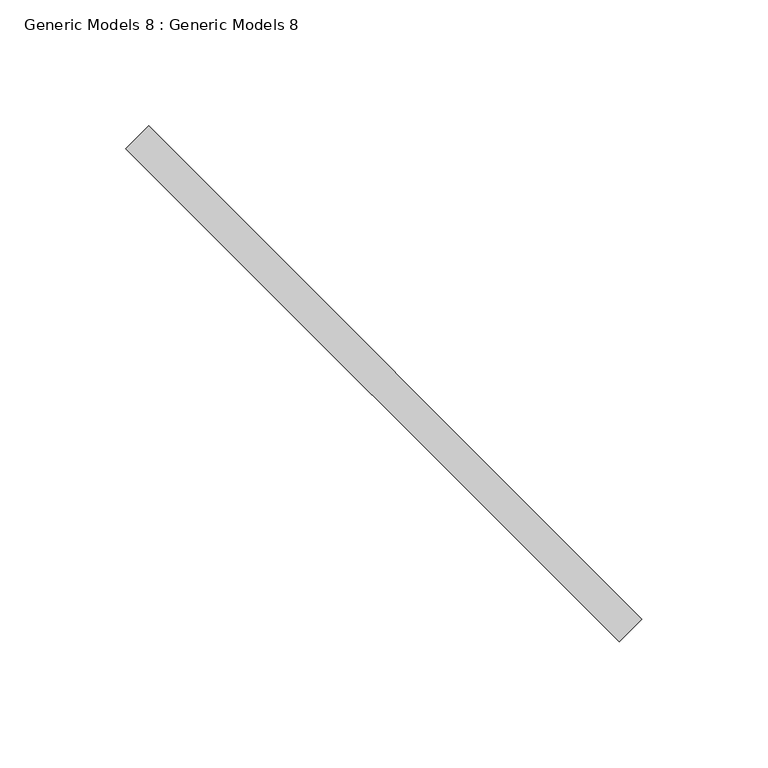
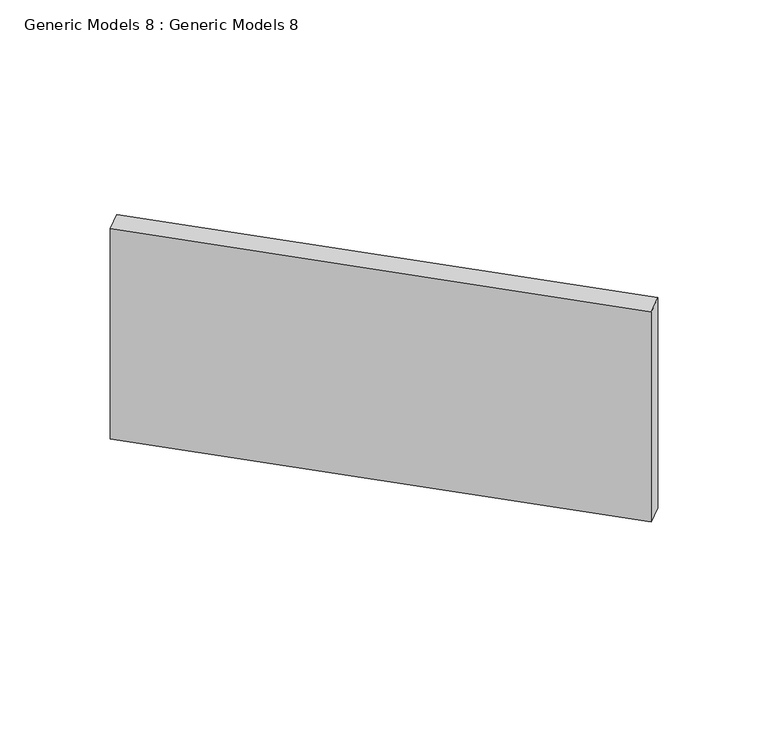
"""IFC4 building model written with IfcOpenShell, lengths in millimetres: proxy geometry, Generic Models 8 : Generic Models 8."""

from ifc_helpers import new_model, si_unit, frame, origin, place, context, project, spatial, polyline, outline, extrude, source, transform, mapped, element, save


def generic_models_8_generic_models_8_df820373(model_context):
    return source(origin(), model_context, "Body", "SweptSolid", [
        extrude(outline(polyline([(3437.3593744, 3375.1011378), (3633.20875, 3179.2517622), (3624.2284939, 3170.2715061), (3428.3791183, 3366.1208817), (3437.3593744, 3375.1011378)])), frame((0.0, 0.0, 191.29375), z_axis=(0.0, 0.0, 1.0), x_axis=(1.0, 0.0, 0.0)), (0.0, 0.0, 1.0), 127.0),
    ])


if __name__ == "__main__":
    model = new_model("IFC4")
    model_context = context("Model", 3, world=origin())
    ifc_project = project(units=[si_unit("LENGTHUNIT", "METRE", prefix="MILLI")], contexts=[model_context])
    site = spatial("IfcSite", under=ifc_project)
    building = spatial("IfcBuilding", under=site)
    placement = place(None, origin())
    generic_models_8_generic_models_8_shape = generic_models_8_generic_models_8_df820373(model_context)
    element("IfcBuildingElementProxy", 1, Name="Generic Models 8 : Generic Models 8", ObjectType="Generic Models 8 : Generic Models 8", at=placement, inside=building, context=model_context, shape_type="MappedRepresentation", body=[
        mapped(generic_models_8_generic_models_8_shape, transform((0.0, 0.0, 0.0), x_axis=(1.0, 0.0, 0.0), y_axis=(0.0, 1.0, 0.0), z_axis=(0.0, 0.0, 1.0))),
    ])
    save(model, "model.ifc")
